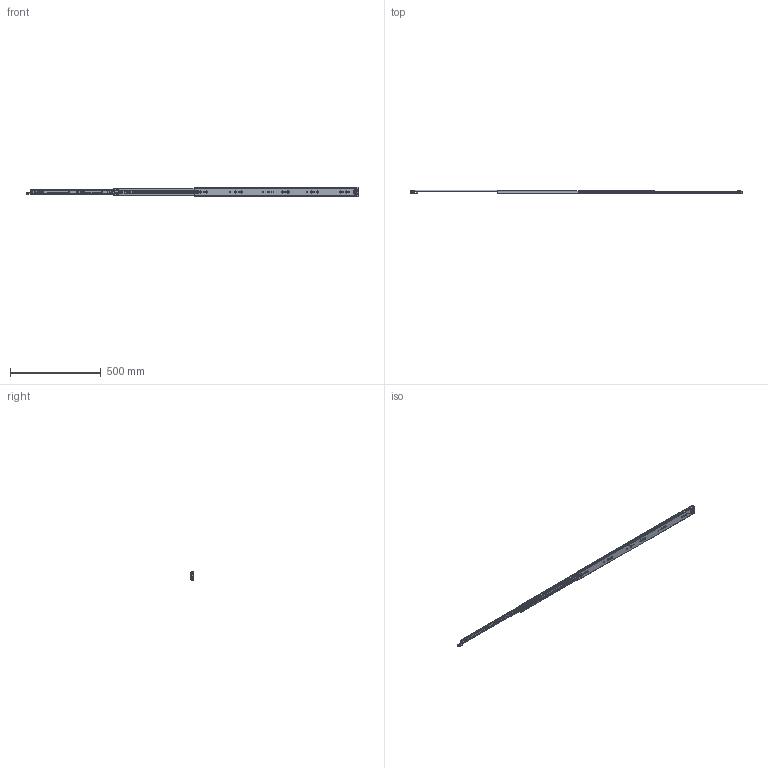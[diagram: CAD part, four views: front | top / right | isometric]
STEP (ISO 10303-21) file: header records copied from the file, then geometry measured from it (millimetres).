
FILE_DESCRIPTION((''),'2;1');
FILE_NAME('1053-3S-36ZUZHUANGTU_ASM','2023-04-12T',('jishu015'),(''),'PRO/ENGINEER BY PARAMETRIC TECHNOLOGY CORPORATION, 2010280','PRO/ENGINEER BY PARAMETRIC TECHNOLOGY CORPORATION, 2010280','');
FILE_SCHEMA(('CONFIG_CONTROL_DESIGN'));
Products named in the file (20): 1053-02-18WAIKE____________; 1053WEIJIAO____________; 1053-3S-24WAIKE_____________ASM; 1053ZHUTIAO-175____________; 53-5-6GANZHU____________; 1053ZHUTIAO-175MM_____________ASM; 1053-02-18ZHONGGUI____________; ZHONGGUIPEIJIAN__________; ZHONGGUISUOKOU__________; 1053-02-18ZHONGGUI_____________ASM; 1053XIAOZHUJIA-14GE____________; 1053XIAOZHUJIA-14GE_____________ASM; 1053-02-18NEIGUI____________; DAOPIAN________; PIAN________; 1053-3SBANJI123_______; JIAO-11_______; 50XINSUOKOU11______; 1053-02-18NEIGUI_____________ASM; 1053-3S-36ZUZHUANGTU_ASM
Assembly tree (99 placements, depth 3):
  1053-3S-36ZUZHUANGTU_ASM
    1053-3S-24WAIKE_____________ASM
      1053-02-18WAIKE____________
      1053WEIJIAO____________
    1053ZHUTIAO-175MM_____________ASM  x2
      1053ZHUTIAO-175____________
      53-5-6GANZHU____________
    1053-02-18ZHONGGUI_____________ASM
      1053-02-18ZHONGGUI____________
      ZHONGGUIPEIJIAN__________
      ZHONGGUISUOKOU__________
    1053XIAOZHUJIA-14GE_____________ASM
      1053XIAOZHUJIA-14GE____________
      53-5-6GANZHU____________  x64
    1053-02-18NEIGUI_____________ASM
      1053-02-18NEIGUI____________
      DAOPIAN________
      PIAN________
      1053-3SBANJI123_______
      JIAO-11_______
      50XINSUOKOU11______
Bounding box: 1826.92 x 18.7 x 53 mm (x, y, z)
Volume: 343611.4 mm3; surface area: 398355.3 mm2
Topology: 111 solids, 111 shells, 2743 faces, 7958 edges, 4962 vertices
Faces by surface type: cylinder 1200, plane 1098, sphere 200, bspline 120, cone 86, extrusion 23, torus 16
Entity records: 88408 total; most frequent: CARTESIAN_POINT 21973, ORIENTED_EDGE 14114, DIRECTION 13650, EDGE_CURVE 7057, AXIS2_PLACEMENT_3D 4722, VERTEX_POINT 4561, VECTOR 4206, LINE 4183
